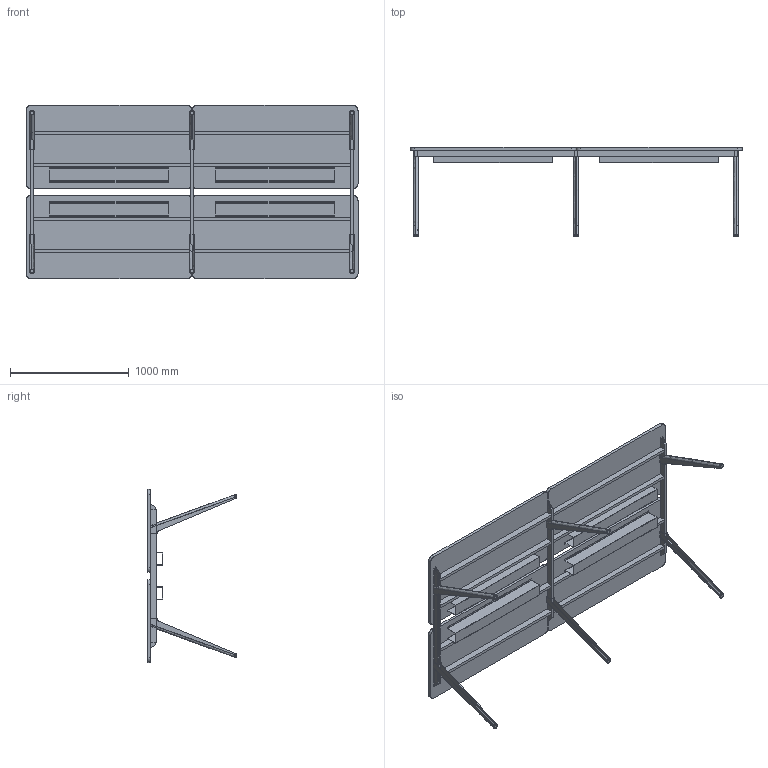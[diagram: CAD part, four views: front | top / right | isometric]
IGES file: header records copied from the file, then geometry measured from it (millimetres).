
Start section: SolidWorks IGES file using analytic representation for surfaces
Global section: file name: C:\Users\simone.cerana\OneDrive - Gruppo Tecno\Desktop\CHINA\DISEGNI DI SERIE\ASSIEMI LISTINO\HORIZON LISTINO\FULL OPTIONAL\HO2814ST.IGS; native system: SolidWorks 2024; preprocessor: SolidWorks 2024; author: simone.cerana; date: 260512.152016; units: millimetre
Bounding box: 2801 x 750.58 x 1460 mm (x, y, z)
Surface area: 13289283.4 mm2 (no closed solid volume)
Topology: 0 solids, 0 shells, 614 faces, 7166 edges, 7166 vertices
Faces by surface type: bspline 440, revolution 174
